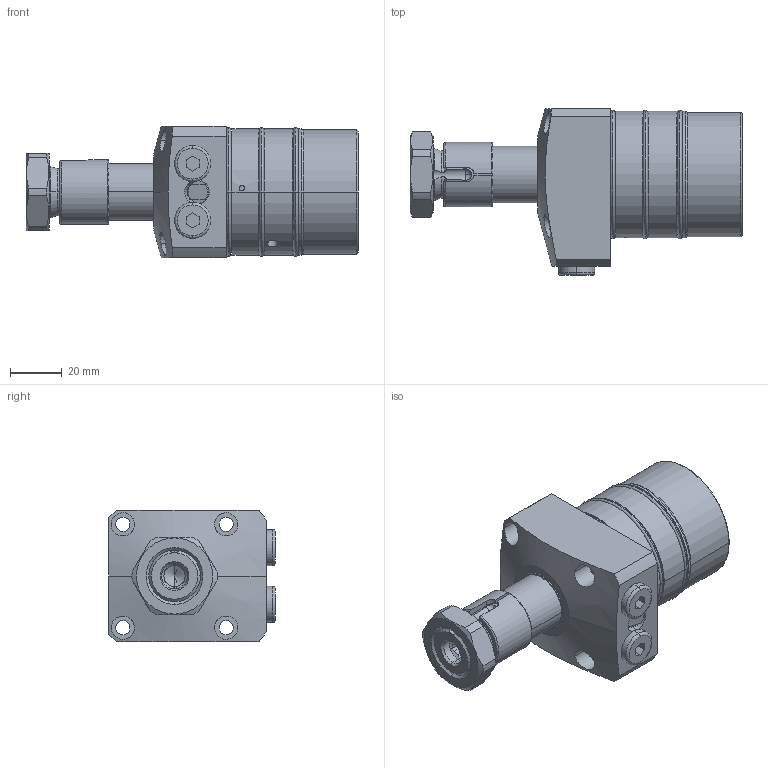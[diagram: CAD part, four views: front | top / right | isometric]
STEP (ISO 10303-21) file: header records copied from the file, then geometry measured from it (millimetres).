
FILE_DESCRIPTION(/* description */ (''),/* implementation_level */ '2;1');
FILE_NAME(/* name */ 'KTRW48-RE.stp',/* time_stamp */ '2022-11-18T11:15:41+08:00',/* author */ (''),/* organization */ (''),/* preprocessor_version */ 'ST-DEVELOPER v16.7',/* originating_system */ 'SIEMENS PLM Software NX 12.0',/* authorisation */ '');
FILE_SCHEMA (('AP203_CONFIGURATION_CONTROLLED_3D_DESIGN_OF_MECHANICAL_PARTS_AND_ASSEMBLIES_MIM_LF { 1 0 10303 403 2 1 2}'));
Length unit declared in the file: millimetre
Products named in the file (7): KTRW48-RE-05; KTRW48-RE-06; KTRW48-RE-01; KTRW48-RE-02; KTRW48-RE-03; KTRW48-RE-04; LHW0481-CLE_step
Assembly tree (9 placements, depth 2):
  LHW0481-CLE_step
    KTRW48-RE-04  x3
    KTRW48-RE-03
    KTRW48-RE-02
    KTRW48-RE-01
    KTRW48-RE-06  x2
    KTRW48-RE-05
Bounding box: 128.5 x 64.5 x 51 mm (x, y, z)
Volume: 187625.2 mm3; surface area: 38443.2 mm2
Topology: 12 solids, 12 shells, 381 faces, 854 edges, 523 vertices
Faces by surface type: cylinder 116, plane 110, torus 84, cone 69, sphere 2
Entity records: 10334 total; most frequent: CARTESIAN_POINT 2231, DIRECTION 1633, ORIENTED_EDGE 1420, EDGE_CURVE 710, AXIS2_PLACEMENT_3D 690, VERTEX_POINT 439, CIRCLE 367, EDGE_LOOP 355
